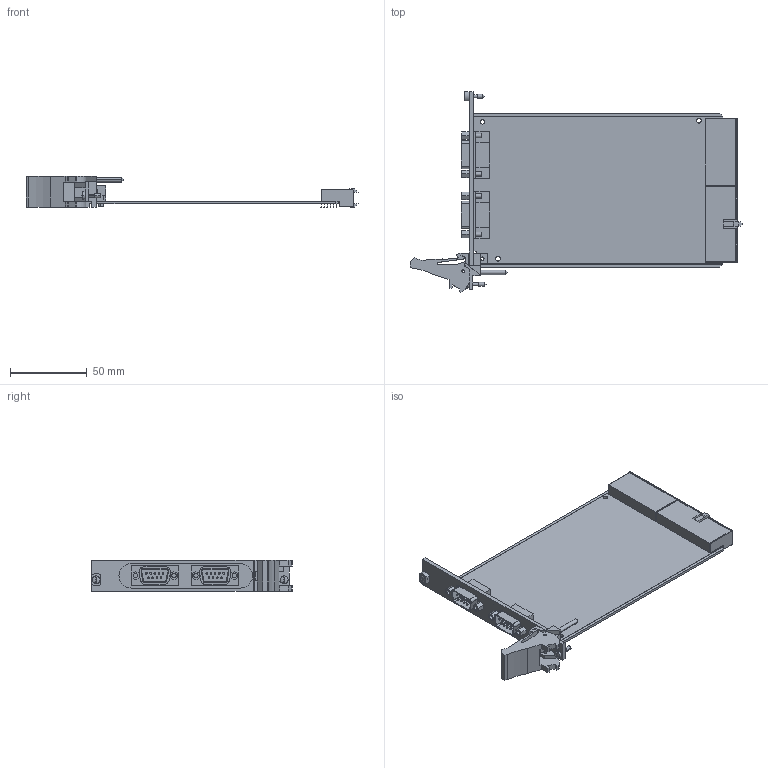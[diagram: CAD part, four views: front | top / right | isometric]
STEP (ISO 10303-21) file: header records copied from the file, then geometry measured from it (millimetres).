
FILE_DESCRIPTION((''),'2;1');
FILE_NAME('CU_PXI-8461-8462','2008-04-22T',('dcrowder'),(''),'PRO/ENGINEER BY PARAMETRIC TECHNOLOGY CORPORATION, 2006080','PRO/ENGINEER BY PARAMETRIC TECHNOLOGY CORPORATION, 2006080','');
FILE_SCHEMA(('CONFIG_CONTROL_DESIGN'));
Length unit declared in the file: inch
Products named in the file (1): CU_PXI-8461-8462
Bounding box: 216.08 x 130.62 x 20.19 mm (x, y, z)
Volume: 61616.1 mm3; surface area: 53723.4 mm2
Topology: 1 solids, 1 shells, 666 faces, 1653 edges, 1089 vertices
Faces by surface type: plane 396, cylinder 260, cone 6, sphere 4
Entity records: 19907 total; most frequent: DIRECTION 3524, CARTESIAN_POINT 3408, ORIENTED_EDGE 3298, EDGE_CURVE 1649, AXIS2_PLACEMENT_3D 1210, VECTOR 1104, LINE 1104, VERTEX_POINT 1089
